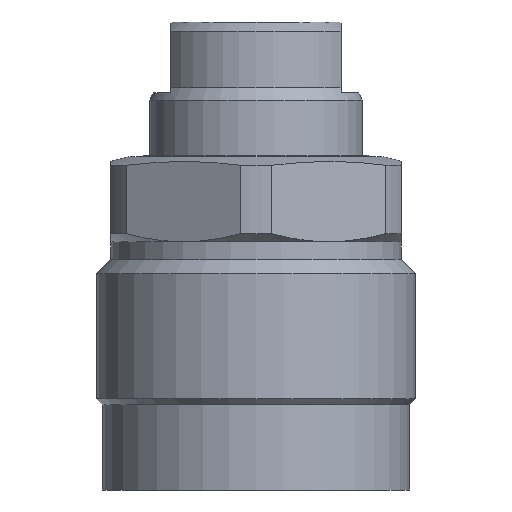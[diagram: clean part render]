
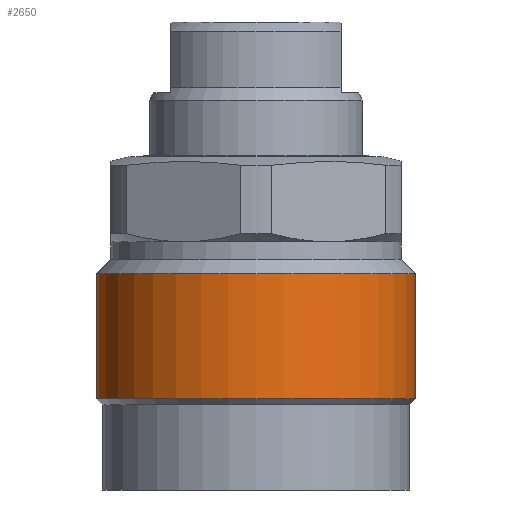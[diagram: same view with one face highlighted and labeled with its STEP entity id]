
A CAD part, front view. The second image highlights one B-rep face of the part: STEP entity #2650.
In plain terms, the highlighted cylindrical face has radius 22.5 mm (diameter 45 mm), a partial arc.
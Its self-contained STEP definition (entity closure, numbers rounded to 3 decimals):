
#70 = DIRECTION ( 'NONE',  ( 0., 0., 1. ) ) ;
#72 = FACE_OUTER_BOUND ( 'NONE', #2153, .T. ) ;
#73 = CARTESIAN_POINT ( 'NONE',  ( 0., 0., 5.219 ) ) ;
#75 = CYLINDRICAL_SURFACE ( 'NONE', #1208, 22.5 ) ;
#76 = DIRECTION ( 'NONE',  ( 1., 0., 0. ) ) ;
#370 = CIRCLE ( 'NONE', #375, 22.5 ) ;
#372 = CIRCLE ( 'NONE', #377, 22.5 ) ;
#375 = AXIS2_PLACEMENT_3D ( 'NONE', #1437, #1438, #1439 ) ;
#377 = AXIS2_PLACEMENT_3D ( 'NONE', #1440, #1441, #1442 ) ;
#676 = EDGE_CURVE ( 'NONE', #2306, #2303, #370, .T. ) ;
#677 = EDGE_CURVE ( 'NONE', #2301, #2308, #372, .T. ) ;
#836 = CARTESIAN_POINT ( 'NONE',  ( -22.5, 0., 5.219 ) ) ;
#842 = LINE ( 'NONE', #836, #992 ) ;
#846 = DIRECTION ( 'NONE',  ( 0., 0., 1. ) ) ;
#847 = LINE ( 'NONE', #848, #998 ) ;
#848 = CARTESIAN_POINT ( 'NONE',  ( 22.5, 0., 5.219 ) ) ;
#849 = DIRECTION ( 'NONE',  ( 0., 0., 1. ) ) ;
#992 = VECTOR ( 'NONE', #846, 1000. ) ;
#998 = VECTOR ( 'NONE', #849, 1000. ) ;
#1208 = AXIS2_PLACEMENT_3D ( 'NONE', #73, #70, #76 ) ;
#1437 = CARTESIAN_POINT ( 'NONE',  ( 0., 0., -34.15 ) ) ;
#1438 = DIRECTION ( 'NONE',  ( 0., 0., 1. ) ) ;
#1439 = DIRECTION ( 'NONE',  ( 1., 0., 0. ) ) ;
#1440 = CARTESIAN_POINT ( 'NONE',  ( 0., 0., -16.5 ) ) ;
#1441 = DIRECTION ( 'NONE',  ( 0., 0., 1. ) ) ;
#1442 = DIRECTION ( 'NONE',  ( 1., 0., 0. ) ) ;
#1608 = CARTESIAN_POINT ( 'NONE',  ( -22.5, 0., -16.5 ) ) ;
#1610 = CARTESIAN_POINT ( 'NONE',  ( 22.5, 0., -34.15 ) ) ;
#1613 = CARTESIAN_POINT ( 'NONE',  ( -22.5, 0., -34.15 ) ) ;
#1615 = CARTESIAN_POINT ( 'NONE',  ( 22.5, 0., -16.5 ) ) ;
#1880 = EDGE_CURVE ( 'NONE', #2306, #2301, #842, .T. ) ;
#1881 = EDGE_CURVE ( 'NONE', #2303, #2308, #847, .T. ) ;
#2035 = ORIENTED_EDGE ( 'NONE', *, *, #1880, .F. ) ;
#2036 = ORIENTED_EDGE ( 'NONE', *, *, #676, .T. ) ;
#2037 = ORIENTED_EDGE ( 'NONE', *, *, #1881, .T. ) ;
#2038 = ORIENTED_EDGE ( 'NONE', *, *, #677, .F. ) ;
#2153 = EDGE_LOOP ( 'NONE', ( #2035, #2036, #2037, #2038 ) ) ;
#2301 = VERTEX_POINT ( 'NONE', #1608 ) ;
#2303 = VERTEX_POINT ( 'NONE', #1610 ) ;
#2306 = VERTEX_POINT ( 'NONE', #1613 ) ;
#2308 = VERTEX_POINT ( 'NONE', #1615 ) ;
#2650 = ADVANCED_FACE ( 'NONE', ( #72 ), #75, .T. ) ;
